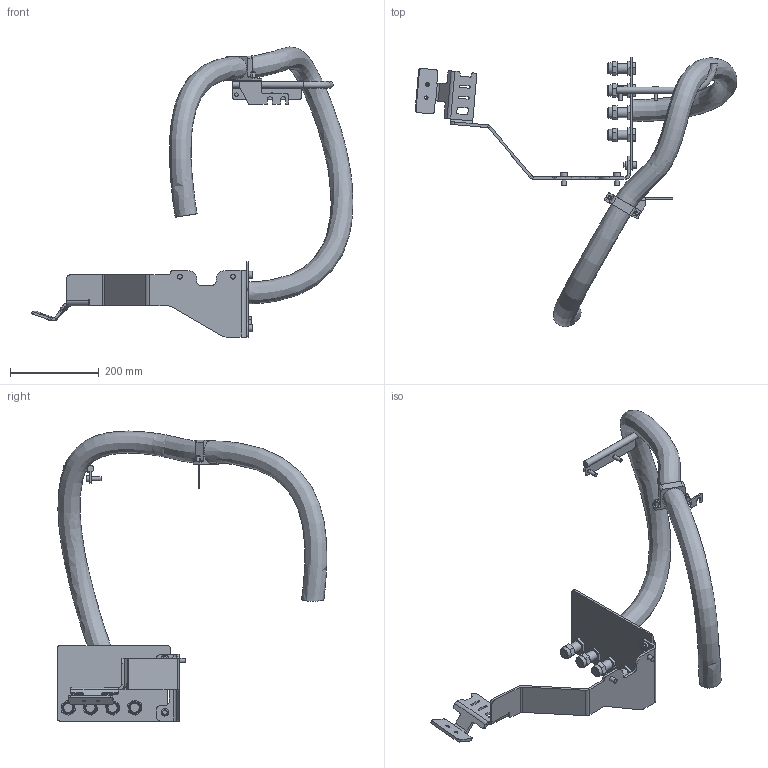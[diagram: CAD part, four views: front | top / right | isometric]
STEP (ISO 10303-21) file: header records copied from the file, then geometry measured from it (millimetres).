
FILE_DESCRIPTION (( 'STEP AP214' ), '1' );
FILE_NAME ('IRB6740-MH3_260kg-300_OC_00_LINK03a_CABLE.step', '2026-05-07T13:28:58', ( '' ), ( '' ), 'SwSTEP 2.0', 'SolidWorks 2024', '' );
FILE_SCHEMA (( 'AUTOMOTIVE_DESIGN' ));
Length unit declared in the file: millimetre
Products named in the file (1): IRB6740-MH3_260kg-300_OC_00_LINK03a_CABLE
Bounding box: 725 x 607.81 x 653.62 mm (x, y, z)
Volume: 3706857.6 mm3; surface area: 515395.1 mm2
Topology: 1 solids, 5 shells, 430 faces, 1043 edges, 675 vertices
Faces by surface type: plane 291, cylinder 122, cone 10, torus 5, bspline 2
Full cylindrical faces by diameter (mm): 6 x2, 6.8 x2, 7.5 x1, 8 x2, 9.8 x4, 10 x4, 11 x2, 13.27 x2, 15 x1, 16.27 x4, 17.2 x4, 17.321 x2, 20 x4, 21 x4, 22 x4
Entity records: 17939 total; most frequent: CARTESIAN_POINT 3325, DIRECTION 2088, ORIENTED_EDGE 1896, EDGE_CURVE 948, AXIS2_PLACEMENT_3D 721, VECTOR 646, LINE 646, VERTEX_POINT 640
